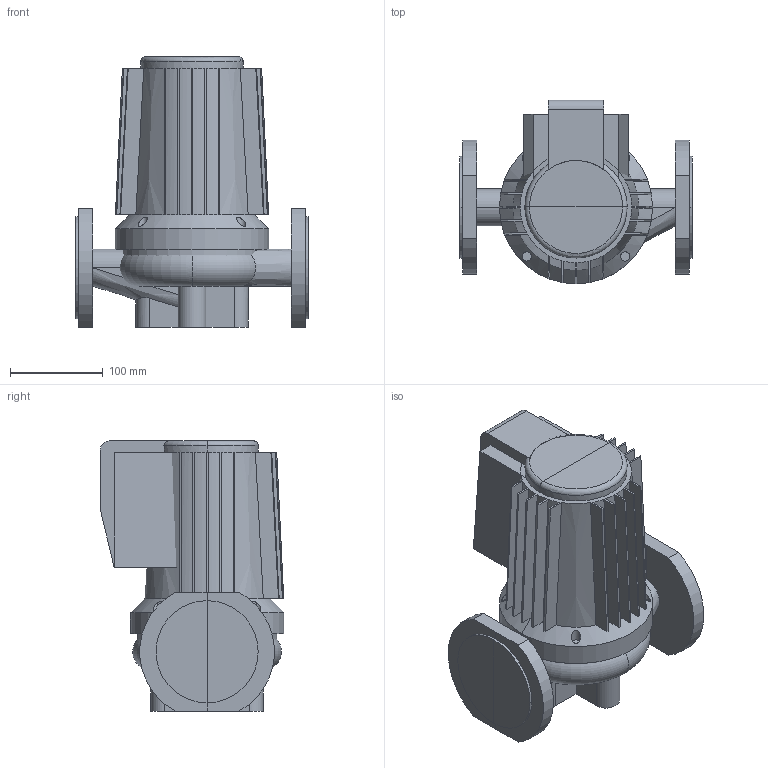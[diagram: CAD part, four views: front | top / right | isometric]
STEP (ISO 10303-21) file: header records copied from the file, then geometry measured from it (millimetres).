
FILE_DESCRIPTION(/* description */ (''),/* implementation_level */ '2;1');
FILE_NAME(/* name */ 'C:\Users\a.zyazeva\Desktop\Wellmix\TG TD WRE WRS\WRS 40-120 F (220 В).stp',/* time_stamp */ '2024-08-28T00:14:53+03:00',/* author */ ('a.zyazeva'),/* organization */ (''),/* preprocessor_version */ 'ST-DEVELOPER v18.1',/* originating_system */ 'Autodesk Inventor 2022',/* authorisation */ '');
FILE_SCHEMA (('AUTOMOTIVE_DESIGN { 1 0 10303 214 3 1 1 }'));
Length unit declared in the file: millimetre
Products named in the file (1): WRS 40-120 F (220 В)
Bounding box: 250 x 197.5 x 291 mm (x, y, z)
Volume: 6436926.4 mm3; surface area: 545012.2 mm2
Topology: 6 solids, 6 shells, 175 faces, 427 edges, 265 vertices
Faces by surface type: plane 105, cylinder 30, cone 17, bspline 17, torus 6
Entity records: 6631 total; most frequent: CARTESIAN_POINT 2700, ORIENTED_EDGE 854, DIRECTION 737, EDGE_CURVE 427, VERTEX_POINT 265, AXIS2_PLACEMENT_3D 264, LINE 209, VECTOR 209
